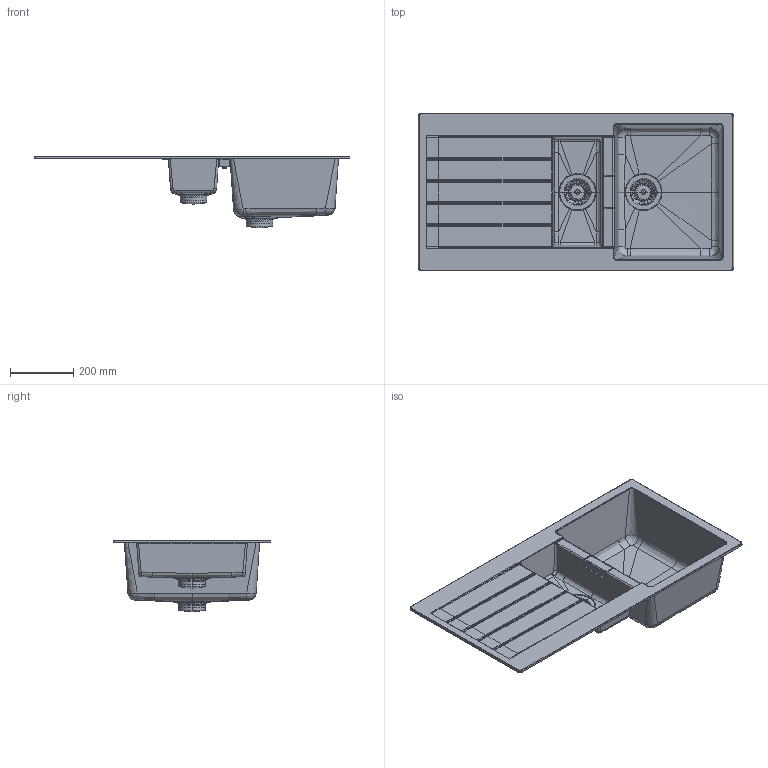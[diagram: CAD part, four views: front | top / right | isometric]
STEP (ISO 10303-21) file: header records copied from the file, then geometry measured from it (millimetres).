
FILE_DESCRIPTION(/* description */ (''),/* implementation_level */ '2;1');
FILE_NAME(/* name */ 'SIGD150',/* time_stamp */ '2014-11-04T10:48:41+01:00',/* author */ (''),/* organization */ (''),/* preprocessor_version */ 'ST-DEVELOPER v15',/* originating_system */ '',/* authorisation */ '');
FILE_SCHEMA (('AUTOMOTIVE_DESIGN'));
Length unit declared in the file: millimetre
Products named in the file (1): Document
Bounding box: 1000 x 500 x 227.25 mm (x, y, z)
Volume: 62210.7 mm3; surface area: 889733 mm2
Topology: 6 solids, 445 shells, 801 faces, 3194 edges, 2748 vertices
Faces by surface type: bspline 743, plane 58
Entity records: 119441 total; most frequent: CARTESIAN_POINT 102658, ORIENTED_EDGE 4366, EDGE_CURVE 3174, VERTEX_POINT 2748, B_SPLINE_CURVE_WITH_KNOTS 2034, EDGE_LOOP 970, ADVANCED_FACE 801, FACE_OUTER_BOUND 801
